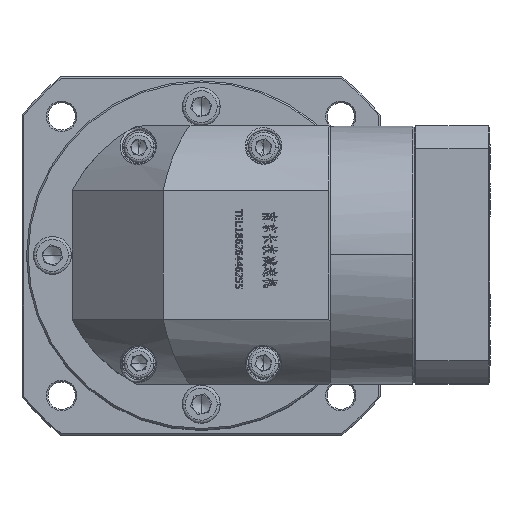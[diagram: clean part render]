
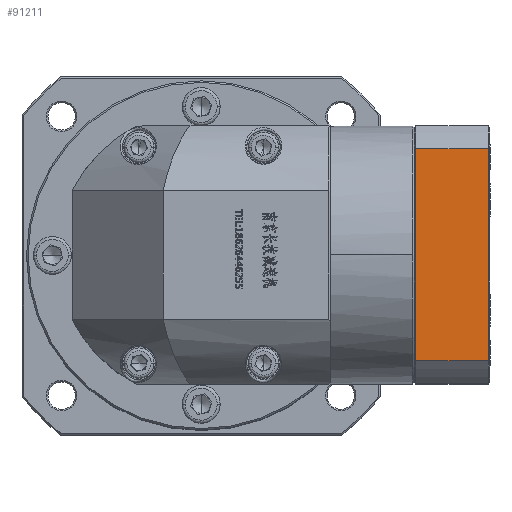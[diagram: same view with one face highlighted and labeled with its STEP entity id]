
A CAD part, top view. The second image highlights one B-rep face of the part: STEP entity #91211.
In plain terms, the highlighted planar face has unit normal (0, 0, 1).
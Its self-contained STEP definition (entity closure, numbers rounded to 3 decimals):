
#14992 = EDGE_CURVE ( 'NONE', #133681, #18453, #17046, .T. ) ;
#17046 = LINE ( 'NONE', #42945, #76292 ) ;
#18453 = VERTEX_POINT ( 'NONE', #174409 ) ;
#37073 = CARTESIAN_POINT ( 'NONE',  ( 79.503, 103.697, 6.84 ) ) ;
#42945 = CARTESIAN_POINT ( 'NONE',  ( 103.503, 103.697, 6.84 ) ) ;
#43273 = LINE ( 'NONE', #171437, #83671 ) ;
#58016 = VECTOR ( 'NONE', #102378, 1000. ) ;
#66233 = FACE_OUTER_BOUND ( 'NONE', #114599, .T. ) ;
#71860 = LINE ( 'NONE', #148556, #150855 ) ;
#73940 = ORIENTED_EDGE ( 'NONE', *, *, #84374, .T. ) ;
#74882 = CARTESIAN_POINT ( 'NONE',  ( 79.503, 103.697, 6.84 ) ) ;
#76292 = VECTOR ( 'NONE', #139461, 1000. ) ;
#83671 = VECTOR ( 'NONE', #130458, 1000. ) ;
#84212 = DIRECTION ( 'NONE',  ( -1., 0., 0. ) ) ;
#84374 = EDGE_CURVE ( 'NONE', #166085, #137046, #94284, .T. ) ;
#91211 = ADVANCED_FACE ( 'NONE', ( #66233 ), #153455, .F. ) ;
#91829 = DIRECTION ( 'NONE',  ( -1., 0., 0. ) ) ;
#94284 = LINE ( 'NONE', #74882, #58016 ) ;
#101339 = ORIENTED_EDGE ( 'NONE', *, *, #128424, .F. ) ;
#102378 = DIRECTION ( 'NONE',  ( 0., -1., 0. ) ) ;
#110564 = CARTESIAN_POINT ( 'NONE',  ( 104.003, 103.697, 6.84 ) ) ;
#114599 = EDGE_LOOP ( 'NONE', ( #121428, #101339, #73940, #170521 ) ) ;
#121428 = ORIENTED_EDGE ( 'NONE', *, *, #14992, .F. ) ;
#128424 = EDGE_CURVE ( 'NONE', #166085, #133681, #43273, .T. ) ;
#129272 = AXIS2_PLACEMENT_3D ( 'NONE', #110564, #152287, #84212 ) ;
#130458 = DIRECTION ( 'NONE',  ( 1., 0., 0. ) ) ;
#130813 = CARTESIAN_POINT ( 'NONE',  ( 79.503, 173.518, 6.84 ) ) ;
#133681 = VERTEX_POINT ( 'NONE', #164299 ) ;
#137046 = VERTEX_POINT ( 'NONE', #37073 ) ;
#139461 = DIRECTION ( 'NONE',  ( 0., -1., 0. ) ) ;
#143974 = EDGE_CURVE ( 'NONE', #18453, #137046, #71860, .T. ) ;
#148556 = CARTESIAN_POINT ( 'NONE',  ( 104.003, 103.697, 6.84 ) ) ;
#150855 = VECTOR ( 'NONE', #91829, 1000. ) ;
#152287 = DIRECTION ( 'NONE',  ( 0., 0., -1. ) ) ;
#153455 = PLANE ( 'NONE',  #129272 ) ;
#164299 = CARTESIAN_POINT ( 'NONE',  ( 103.503, 173.518, 6.84 ) ) ;
#166085 = VERTEX_POINT ( 'NONE', #130813 ) ;
#170521 = ORIENTED_EDGE ( 'NONE', *, *, #143974, .F. ) ;
#171437 = CARTESIAN_POINT ( 'NONE',  ( 104.003, 173.518, 6.84 ) ) ;
#174409 = CARTESIAN_POINT ( 'NONE',  ( 103.503, 103.697, 6.84 ) ) ;
